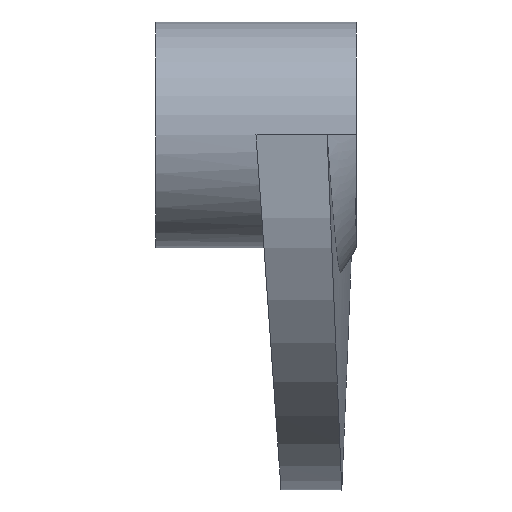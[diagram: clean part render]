
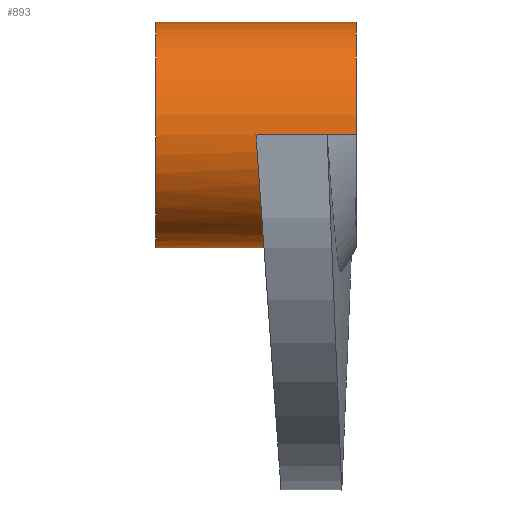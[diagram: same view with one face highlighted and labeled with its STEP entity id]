
A CAD part, left-side view. The second image highlights one B-rep face of the part: STEP entity #893.
In plain terms, the highlighted cylindrical face has radius 13.5 mm (diameter 27 mm), a partial arc.
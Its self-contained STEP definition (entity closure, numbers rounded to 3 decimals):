
#11 = VERTEX_POINT ( 'NONE', #63 ) ;
#15 = DIRECTION ( 'NONE',  ( 0., 1., 0. ) ) ;
#28 = CARTESIAN_POINT ( 'NONE',  ( -6.778, 9.814, -11.684 ) ) ;
#34 = CARTESIAN_POINT ( 'NONE',  ( -13.326, 11.634, -2.205 ) ) ;
#39 = VECTOR ( 'NONE', #584, 1000. ) ;
#51 = AXIS2_PLACEMENT_3D ( 'NONE', #431, #1167, #543 ) ;
#53 = VECTOR ( 'NONE', #501, 1000. ) ;
#63 = CARTESIAN_POINT ( 'NONE',  ( -13.5, 0., 0. ) ) ;
#79 = ORIENTED_EDGE ( 'NONE', *, *, #1104, .F. ) ;
#95 = EDGE_LOOP ( 'NONE', ( #323, #79, #172, #1156, #714, #557 ) ) ;
#132 = CARTESIAN_POINT ( 'NONE',  ( -8.254, 10.053, -10.719 ) ) ;
#136 = CARTESIAN_POINT ( 'NONE',  ( -13.478, 11.853, -0.889 ) ) ;
#160 = DIRECTION ( 'NONE',  ( 0., -1., 0. ) ) ;
#172 = ORIENTED_EDGE ( 'NONE', *, *, #896, .T. ) ;
#174 = CARTESIAN_POINT ( 'NONE',  ( -13.5, 12., 0. ) ) ;
#232 = CARTESIAN_POINT ( 'NONE',  ( -9.874, 10.372, -9.217 ) ) ;
#238 = CARTESIAN_POINT ( 'NONE',  ( -13.5, 12., 0. ) ) ;
#242 = VERTEX_POINT ( 'NONE', #509 ) ;
#298 = AXIS2_PLACEMENT_3D ( 'NONE', #634, #15, #737 ) ;
#323 = ORIENTED_EDGE ( 'NONE', *, *, #918, .F. ) ;
#338 = CARTESIAN_POINT ( 'NONE',  ( -10.731, 10.572, -8.203 ) ) ;
#343 = CARTESIAN_POINT ( 'NONE',  ( 0., 9., -13.5 ) ) ;
#401 = VERTEX_POINT ( 'NONE', #834 ) ;
#431 = CARTESIAN_POINT ( 'NONE',  ( 0., 24., 0. ) ) ;
#440 = CARTESIAN_POINT ( 'NONE',  ( -2.216, 9.228, -13.324 ) ) ;
#446 = CARTESIAN_POINT ( 'NONE',  ( -11.704, 10.844, -6.743 ) ) ;
#472 = DIRECTION ( 'NONE',  ( 0., 0., -1. ) ) ;
#501 = DIRECTION ( 'NONE',  ( 0., 1., 0. ) ) ;
#507 = VERTEX_POINT ( 'NONE', #1051 ) ;
#509 = CARTESIAN_POINT ( 'NONE',  ( 0., 24., 13.5 ) ) ;
#543 = DIRECTION ( 'NONE',  ( 0., 0., 1. ) ) ;
#549 = CARTESIAN_POINT ( 'NONE',  ( -4.365, 9.477, -12.805 ) ) ;
#554 = AXIS2_PLACEMENT_3D ( 'NONE', #684, #160, #472 ) ;
#555 = CARTESIAN_POINT ( 'NONE',  ( -12.309, 11.055, -5.562 ) ) ;
#557 = ORIENTED_EDGE ( 'NONE', *, *, #764, .T. ) ;
#584 = DIRECTION ( 'NONE',  ( 0., -1., 0. ) ) ;
#617 = CARTESIAN_POINT ( 'NONE',  ( -0.442, 9.044, -13.5 ) ) ;
#634 = CARTESIAN_POINT ( 'NONE',  ( 0., 0., 0. ) ) ;
#648 = CARTESIAN_POINT ( 'NONE',  ( -5.993, 9.699, -12.105 ) ) ;
#653 = CARTESIAN_POINT ( 'NONE',  ( -13.069, 11.415, -3.496 ) ) ;
#663 = CIRCLE ( 'NONE', #298, 13.5 ) ;
#667 = CIRCLE ( 'NONE', #51, 13.5 ) ;
#682 = EDGE_CURVE ( 'NONE', #687, #1258, #916, .T. ) ;
#684 = CARTESIAN_POINT ( 'NONE',  ( 0., 0., 0. ) ) ;
#687 = VERTEX_POINT ( 'NONE', #343 ) ;
#714 = ORIENTED_EDGE ( 'NONE', *, *, #949, .F. ) ;
#734 = CARTESIAN_POINT ( 'NONE',  ( 0., 9., -13.5 ) ) ;
#737 = DIRECTION ( 'NONE',  ( 0., 0., 1. ) ) ;
#750 = CARTESIAN_POINT ( 'NONE',  ( -7.157, 9.873, -11.455 ) ) ;
#756 = CARTESIAN_POINT ( 'NONE',  ( -13.391, 11.706, -1.77 ) ) ;
#764 = EDGE_CURVE ( 'NONE', #11, #401, #663, .T. ) ;
#788 = CARTESIAN_POINT ( 'NONE',  ( 0., 0., 13.5 ) ) ;
#810 = LINE ( 'NONE', #788, #1011 ) ;
#834 = CARTESIAN_POINT ( 'NONE',  ( 0., 0., 13.5 ) ) ;
#852 = CARTESIAN_POINT ( 'NONE',  ( -8.934, 10.177, -10.16 ) ) ;
#858 = CARTESIAN_POINT ( 'NONE',  ( -13.5, 11.926, -0.444 ) ) ;
#893 = ADVANCED_FACE ( 'NONE', ( #1078 ), #1191, .T. ) ;
#896 = EDGE_CURVE ( 'NONE', #507, #687, #944, .T. ) ;
#916 = B_SPLINE_CURVE_WITH_KNOTS ( 'NONE', 3,
 ( #734, #617, #1032, #1064, #440, #1172, #549, #1272, #648, #28, #750, #132, #852, #232, #965, #338, #1068, #446, #1177, #555, #1276, #653, #34, #756, #136, #858, #238 ),
 .UNSPECIFIED., .F., .F.,
 ( 4, 2, 2, 2, 2, 2, 2, 2, 1, 2, 2, 2, 2, 4 ),
 ( 0.021, 0.023, 0.024, 0.027, 0.028, 0.029, 0.032, 0.033, 0.035, 0.036, 0.037, 0.04, 0.041, 0.043 ),
 .UNSPECIFIED. ) ;
#918 = EDGE_CURVE ( 'NONE', #242, #401, #810, .T. ) ;
#944 = LINE ( 'NONE', #1209, #39 ) ;
#949 = EDGE_CURVE ( 'NONE', #11, #1258, #1234, .T. ) ;
#965 = CARTESIAN_POINT ( 'NONE',  ( -10.173, 10.439, -8.886 ) ) ;
#1011 = VECTOR ( 'NONE', #1304, 1000. ) ;
#1032 = CARTESIAN_POINT ( 'NONE',  ( -0.885, 9.089, -13.478 ) ) ;
#1051 = CARTESIAN_POINT ( 'NONE',  ( 0., 24., -13.5 ) ) ;
#1064 = CARTESIAN_POINT ( 'NONE',  ( -1.771, 9.181, -13.391 ) ) ;
#1068 = CARTESIAN_POINT ( 'NONE',  ( -11.253, 10.706, -7.496 ) ) ;
#1078 = FACE_OUTER_BOUND ( 'NONE', #95, .T. ) ;
#1104 = EDGE_CURVE ( 'NONE', #507, #242, #667, .T. ) ;
#1156 = ORIENTED_EDGE ( 'NONE', *, *, #682, .T. ) ;
#1167 = DIRECTION ( 'NONE',  ( 0., 1., 0. ) ) ;
#1172 = CARTESIAN_POINT ( 'NONE',  ( -3.521, 9.373, -13.063 ) ) ;
#1177 = CARTESIAN_POINT ( 'NONE',  ( -12.119, 10.984, -5.965 ) ) ;
#1191 = CYLINDRICAL_SURFACE ( 'NONE', #554, 13.5 ) ;
#1209 = CARTESIAN_POINT ( 'NONE',  ( 0., 0., -13.5 ) ) ;
#1215 = CARTESIAN_POINT ( 'NONE',  ( -13.5, 24., 0. ) ) ;
#1234 = LINE ( 'NONE', #1215, #53 ) ;
#1258 = VERTEX_POINT ( 'NONE', #174 ) ;
#1272 = CARTESIAN_POINT ( 'NONE',  ( -5.59, 9.642, -12.296 ) ) ;
#1276 = CARTESIAN_POINT ( 'NONE',  ( -12.816, 11.271, -4.335 ) ) ;
#1304 = DIRECTION ( 'NONE',  ( 0., -1., 0. ) ) ;
